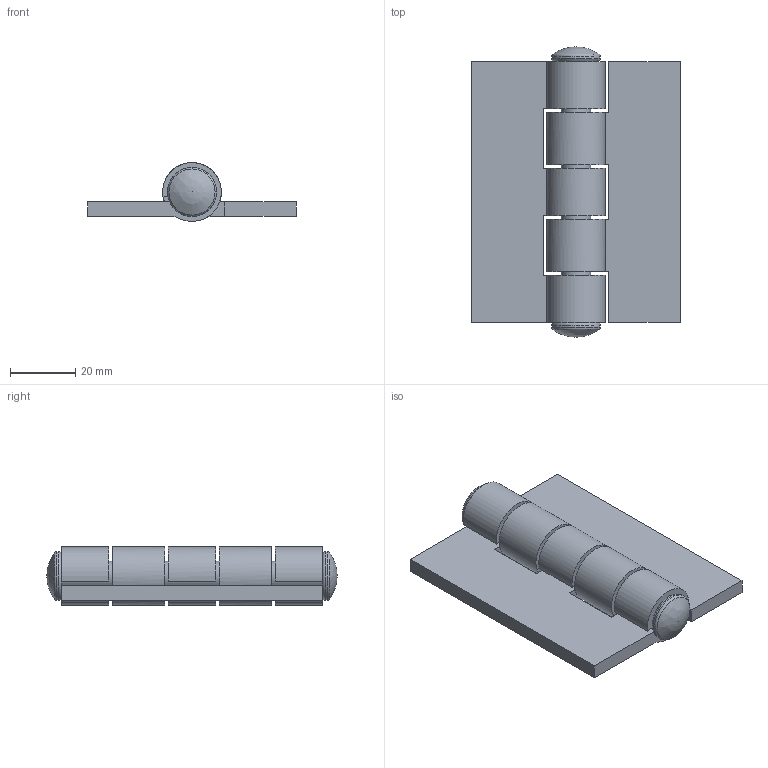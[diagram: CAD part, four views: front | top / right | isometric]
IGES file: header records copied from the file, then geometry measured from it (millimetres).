
Global section: file name: DR_HTN8064-45; native system: Autodesk Inventor 2015; preprocessor: unknown; author: Administrator; date: 20170823.090209; units: millimetre
Bounding box: 64 x 89 x 17.99 mm (x, y, z)
Volume: 36805.1 mm3; surface area: 20384.1 mm2
Topology: 3 solids, 3 shells, 59 faces, 169 edges, 116 vertices
Faces by surface type: bspline 59
